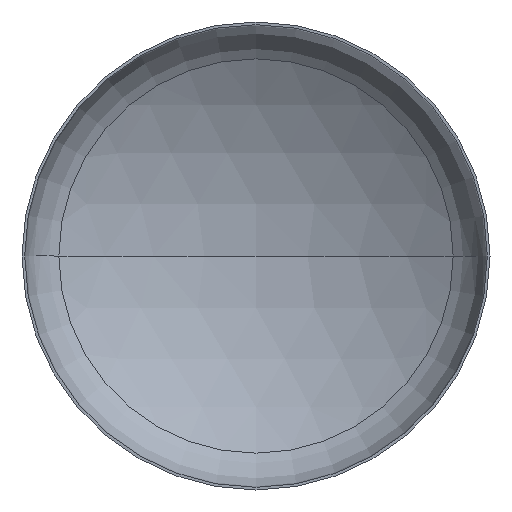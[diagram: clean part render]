
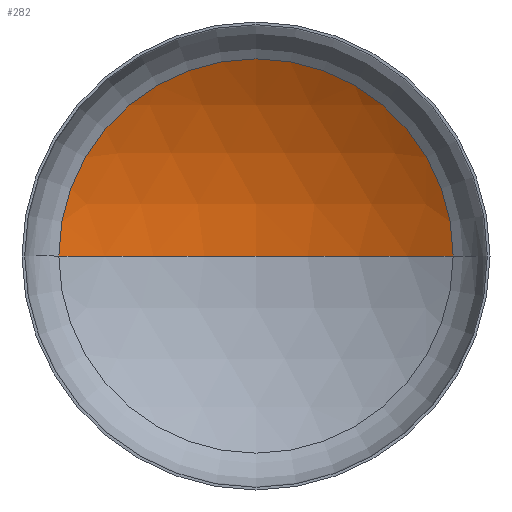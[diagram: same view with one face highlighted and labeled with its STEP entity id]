
A CAD part, front view. The second image highlights one B-rep face of the part: STEP entity #282.
In plain terms, the highlighted spherical face has radius 4000 mm.
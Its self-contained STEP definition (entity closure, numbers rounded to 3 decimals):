
#8 = AXIS2_PLACEMENT_3D ( 'NONE', #370, #127, #130 ) ;
#12 = AXIS2_PLACEMENT_3D ( 'NONE', #88, #89, #99 ) ;
#16 = AXIS2_PLACEMENT_3D ( 'NONE', #116, #185, #115 ) ;
#17 = CIRCLE ( 'NONE', #12, 4000. ) ;
#19 = AXIS2_PLACEMENT_3D ( 'NONE', #391, #386, #367 ) ;
#35 = CIRCLE ( 'NONE', #8, 2106.502 ) ;
#45 = EDGE_LOOP ( 'NONE', ( #211, #245, #121 ) ) ;
#55 = VERTEX_POINT ( 'NONE', #175 ) ;
#88 = CARTESIAN_POINT ( 'NONE',  ( 0., -2655.815, 0. ) ) ;
#89 = DIRECTION ( 'NONE',  ( 0., 0., 1. ) ) ;
#99 = DIRECTION ( 'NONE',  ( 1., 0., 0. ) ) ;
#115 = DIRECTION ( 'NONE',  ( -1., 0., 0. ) ) ;
#116 = CARTESIAN_POINT ( 'NONE',  ( 0., -2655.815, 0. ) ) ;
#121 = ORIENTED_EDGE ( 'NONE', *, *, #327, .T. ) ;
#127 = DIRECTION ( 'NONE',  ( 0., -1., 0. ) ) ;
#130 = DIRECTION ( 'NONE',  ( 1., 0., 0. ) ) ;
#145 = VERTEX_POINT ( 'NONE', #258 ) ;
#157 = CARTESIAN_POINT ( 'NONE',  ( -2106.502, 744.575, 0. ) ) ;
#175 = CARTESIAN_POINT ( 'NONE',  ( 2106.502, 744.575, 0. ) ) ;
#185 = DIRECTION ( 'NONE',  ( 0., 0., -1. ) ) ;
#203 = FACE_OUTER_BOUND ( 'NONE', #45, .T. ) ;
#211 = ORIENTED_EDGE ( 'NONE', *, *, #316, .F. ) ;
#245 = ORIENTED_EDGE ( 'NONE', *, *, #304, .T. ) ;
#258 = CARTESIAN_POINT ( 'NONE',  ( 0., 1344.185, 0. ) ) ;
#282 = ADVANCED_FACE ( 'NONE', ( #203 ), #284, .F. ) ;
#284 = SPHERICAL_SURFACE ( 'NONE', #16, 4000. ) ;
#304 = EDGE_CURVE ( 'NONE', #145, #55, #364, .T. ) ;
#316 = EDGE_CURVE ( 'NONE', #145, #341, #17, .T. ) ;
#327 = EDGE_CURVE ( 'NONE', #55, #341, #35, .T. ) ;
#341 = VERTEX_POINT ( 'NONE', #157 ) ;
#364 = CIRCLE ( 'NONE', #19, 4000. ) ;
#367 = DIRECTION ( 'NONE',  ( -1., 0., 0. ) ) ;
#370 = CARTESIAN_POINT ( 'NONE',  ( 0., 744.575, 0. ) ) ;
#386 = DIRECTION ( 'NONE',  ( 0., 0., -1. ) ) ;
#391 = CARTESIAN_POINT ( 'NONE',  ( 0., -2655.815, 0. ) ) ;
